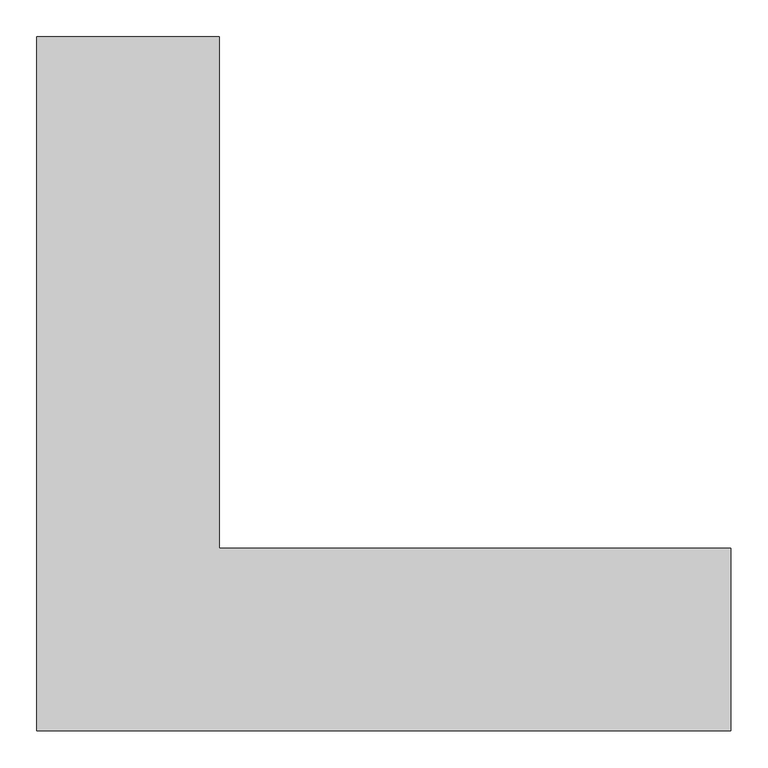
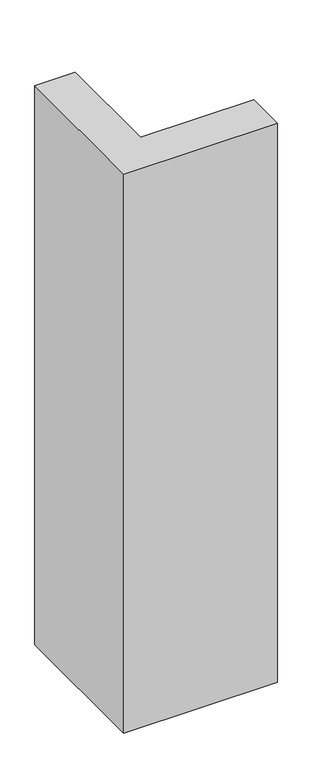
"""IFC4 building model written with IfcOpenShell, lengths in millimetres: column geometry, Columna Estructural Ele : ECO_Ele 95x95x25."""

from ifc_helpers import new_model, si_unit, frame, origin, place, context, project, spatial, polyline, outline, extrude, source, transform, mapped, element, save


def column_462acf0a(model_context):
    return source(origin(), model_context, "Body", "SweptSolid", [
        extrude(outline(polyline([(125.0, 825.0), (125.0, 125.0), (825.0, 125.0), (825.0, -125.0), (-125.0, -125.0), (-125.0, 825.0), (125.0, 825.0)])), frame((0.0, 0.0, -900.0), z_axis=(0.0, 0.0, 1.0), x_axis=(1.0, 0.0, 0.0)), (0.0, 0.0, 1.0), 3650.0),
    ])


if __name__ == "__main__":
    model = new_model("IFC4")
    model_context = context("Model", 3, world=origin())
    ifc_project = project(units=[si_unit("LENGTHUNIT", "METRE", prefix="MILLI")], contexts=[model_context])
    site = spatial("IfcSite", under=ifc_project)
    building = spatial("IfcBuilding", under=site)
    placement = place(None, origin())
    column_shape = column_462acf0a(model_context)
    element("IfcColumn", 1, ObjectType="Columna Estructural Ele : ECO_Ele 95x95x25", at=placement, inside=building, context=model_context, shape_type="MappedRepresentation", body=[
        mapped(column_shape, transform((0.0, 0.0, 0.0), x_axis=(1.0, 0.0, 0.0), y_axis=(0.0, 1.0, 0.0), z_axis=(0.0, 0.0, 1.0))),
    ])
    save(model, "model.ifc")
